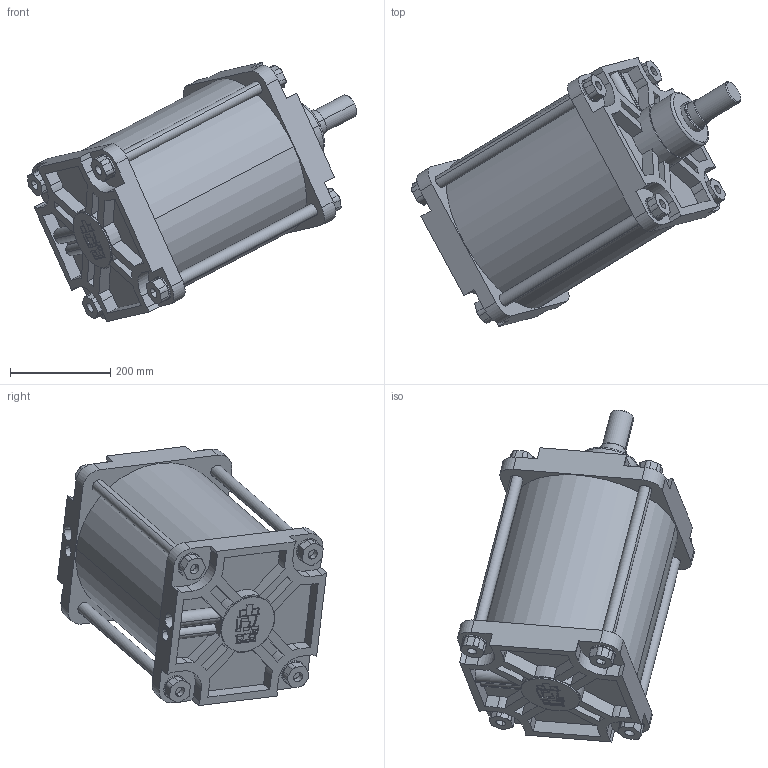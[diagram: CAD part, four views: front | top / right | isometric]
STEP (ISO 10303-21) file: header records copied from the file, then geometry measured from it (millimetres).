
FILE_DESCRIPTION(('CATIA V5 STEP Exchange'),'2;1');
FILE_NAME('D:\stp file for catalog\PNC\320\PNC 320-63-250.stp','2015-10-27T14:01:28+00:00',('none'),('none'),'Version 5-6 Release 2012','CATIA V5 STEP AP203','none');
FILE_SCHEMA(('CONFIG_CONTROL_DESIGN'));
Length unit declared in the file: millimetre
Products named in the file (1): PNC 320-63-250-00
Assembly tree (2 placements, depth 2):
  PNC 320-63-250-00
    #58
    #14831
Bounding box: 657.43 x 537.52 x 518.09 mm (x, y, z)
Volume: 17842500 mm3; surface area: 1853809 mm2
Topology: 2 solids, 4 shells, 522 faces, 1393 edges, 921 vertices
Faces by surface type: plane 305, cylinder 169, cone 42, torus 6
Entity records: 15447 total; most frequent: CARTESIAN_POINT 3485, ORIENTED_EDGE 2786, DIRECTION 1853, EDGE_CURVE 1393, VERTEX_POINT 921, VECTOR 878, LINE 878, AXIS2_PLACEMENT_3D 682
